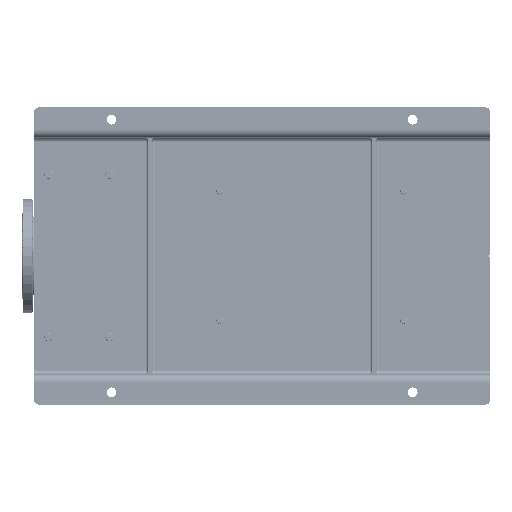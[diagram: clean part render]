
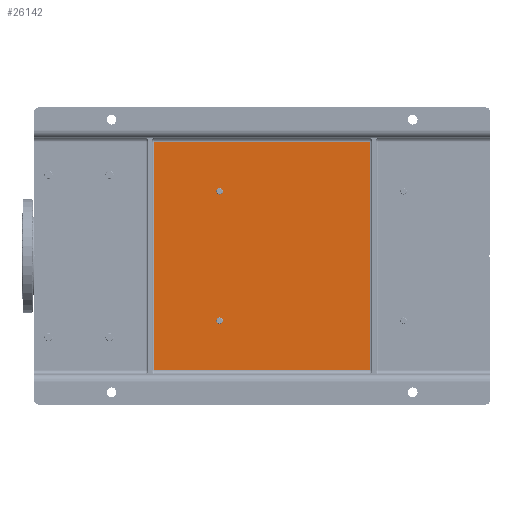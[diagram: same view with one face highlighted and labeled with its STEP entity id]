
A CAD part, front view. The second image highlights one B-rep face of the part: STEP entity #26142.
In plain terms, the highlighted planar face has unit normal (0, -1, 0).
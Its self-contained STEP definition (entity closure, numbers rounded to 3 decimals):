
#4373 = AXIS2_PLACEMENT_3D ( 'NONE', #204736, #61237, #155382 ) ;
#8592 = CIRCLE ( 'NONE', #112157, 8. ) ;
#15932 = DIRECTION ( 'NONE',  ( 0., 1., 0. ) ) ;
#17778 = CARTESIAN_POINT ( 'NONE',  ( 85., 90., -830. ) ) ;
#26142 = ADVANCED_FACE ( 'NONE', ( #74292, #72756, #27940 ), #290217, .T. ) ;
#27940 = FACE_OUTER_BOUND ( 'NONE', #222017, .T. ) ;
#33772 = LINE ( 'NONE', #225121, #246634 ) ;
#36932 = DIRECTION ( 'NONE',  ( -1., 0., 0. ) ) ;
#52984 = CARTESIAN_POINT ( 'NONE',  ( 206., 90., -447.65 ) ) ;
#56445 = EDGE_CURVE ( 'NONE', #251020, #206937, #137474, .T. ) ;
#58164 = CARTESIAN_POINT ( 'NONE',  ( 645., 90., -295. ) ) ;
#59610 = CARTESIAN_POINT ( 'NONE',  ( 645., 90., -825. ) ) ;
#60122 = CARTESIAN_POINT ( 'NONE',  ( 75., 90., -295. ) ) ;
#61237 = DIRECTION ( 'NONE',  ( 0., 1., 0. ) ) ;
#66712 = CARTESIAN_POINT ( 'NONE',  ( 524., 90., -447.65 ) ) ;
#72756 = FACE_BOUND ( 'NONE', #237372, .T. ) ;
#73741 = EDGE_CURVE ( 'NONE', #211365, #236858, #298671, .T. ) ;
#74292 = FACE_BOUND ( 'NONE', #254394, .T. ) ;
#78442 = DIRECTION ( 'NONE',  ( 0., 1., 0. ) ) ;
#86931 = DIRECTION ( 'NONE',  ( 0., 0., -1. ) ) ;
#89977 = CARTESIAN_POINT ( 'NONE',  ( 206., 90., -455.65 ) ) ;
#91826 = EDGE_CURVE ( 'NONE', #236177, #235965, #263511, .T. ) ;
#95923 = EDGE_CURVE ( 'NONE', #206937, #251020, #230438, .T. ) ;
#112157 = AXIS2_PLACEMENT_3D ( 'NONE', #89977, #15932, #86931 ) ;
#115678 = AXIS2_PLACEMENT_3D ( 'NONE', #289835, #78442, #275442 ) ;
#128701 = ORIENTED_EDGE ( 'NONE', *, *, #287774, .T. ) ;
#134426 = VECTOR ( 'NONE', #277097, 1000. ) ;
#137474 = CIRCLE ( 'NONE', #4373, 8. ) ;
#142382 = EDGE_CURVE ( 'NONE', #235965, #236177, #8592, .T. ) ;
#143078 = AXIS2_PLACEMENT_3D ( 'NONE', #168458, #267051, #261040 ) ;
#155382 = DIRECTION ( 'NONE',  ( 0., 0., 1. ) ) ;
#155411 = VERTEX_POINT ( 'NONE', #58164 ) ;
#163883 = ORIENTED_EDGE ( 'NONE', *, *, #95923, .T. ) ;
#168458 = CARTESIAN_POINT ( 'NONE',  ( 75., 90., -1120. ) ) ;
#171007 = ORIENTED_EDGE ( 'NONE', *, *, #211100, .T. ) ;
#180058 = CARTESIAN_POINT ( 'NONE',  ( 85., 90., -825. ) ) ;
#181294 = ORIENTED_EDGE ( 'NONE', *, *, #142382, .T. ) ;
#181872 = CARTESIAN_POINT ( 'NONE',  ( 85., 90., -295. ) ) ;
#183062 = ORIENTED_EDGE ( 'NONE', *, *, #217023, .T. ) ;
#194464 = CARTESIAN_POINT ( 'NONE',  ( 206., 90., -463.65 ) ) ;
#200946 = ORIENTED_EDGE ( 'NONE', *, *, #56445, .T. ) ;
#204736 = CARTESIAN_POINT ( 'NONE',  ( 524., 90., -455.65 ) ) ;
#206937 = VERTEX_POINT ( 'NONE', #230763 ) ;
#210640 = AXIS2_PLACEMENT_3D ( 'NONE', #262341, #283965, #214508 ) ;
#211100 = EDGE_CURVE ( 'NONE', #211474, #155411, #33772, .T. ) ;
#211365 = VERTEX_POINT ( 'NONE', #181872 ) ;
#211474 = VERTEX_POINT ( 'NONE', #59610 ) ;
#214508 = DIRECTION ( 'NONE',  ( 0., 0., 1. ) ) ;
#217023 = EDGE_CURVE ( 'NONE', #236858, #211474, #267830, .T. ) ;
#221548 = CARTESIAN_POINT ( 'NONE',  ( 75., 90., -825. ) ) ;
#222017 = EDGE_LOOP ( 'NONE', ( #232810, #183062, #171007, #128701 ) ) ;
#222074 = DIRECTION ( 'NONE',  ( 0., 0., 1. ) ) ;
#225121 = CARTESIAN_POINT ( 'NONE',  ( 645., 90., -290. ) ) ;
#230438 = CIRCLE ( 'NONE', #210640, 8. ) ;
#230763 = CARTESIAN_POINT ( 'NONE',  ( 524., 90., -463.65 ) ) ;
#232810 = ORIENTED_EDGE ( 'NONE', *, *, #73741, .T. ) ;
#235965 = VERTEX_POINT ( 'NONE', #52984 ) ;
#236177 = VERTEX_POINT ( 'NONE', #194464 ) ;
#236858 = VERTEX_POINT ( 'NONE', #180058 ) ;
#237372 = EDGE_LOOP ( 'NONE', ( #200946, #163883 ) ) ;
#242566 = ORIENTED_EDGE ( 'NONE', *, *, #91826, .T. ) ;
#246634 = VECTOR ( 'NONE', #222074, 1000. ) ;
#251020 = VERTEX_POINT ( 'NONE', #66712 ) ;
#254394 = EDGE_LOOP ( 'NONE', ( #181294, #242566 ) ) ;
#261040 = DIRECTION ( 'NONE',  ( 0., 0., -1. ) ) ;
#262341 = CARTESIAN_POINT ( 'NONE',  ( 524., 90., -455.65 ) ) ;
#263511 = CIRCLE ( 'NONE', #115678, 8. ) ;
#267051 = DIRECTION ( 'NONE',  ( 0., -1., 0. ) ) ;
#267830 = LINE ( 'NONE', #221548, #299192 ) ;
#268461 = LINE ( 'NONE', #60122, #272391 ) ;
#272391 = VECTOR ( 'NONE', #36932, 1000. ) ;
#275442 = DIRECTION ( 'NONE',  ( 0., 0., -1. ) ) ;
#277097 = DIRECTION ( 'NONE',  ( 0., 0., -1. ) ) ;
#283965 = DIRECTION ( 'NONE',  ( 0., 1., 0. ) ) ;
#287774 = EDGE_CURVE ( 'NONE', #155411, #211365, #268461, .T. ) ;
#289835 = CARTESIAN_POINT ( 'NONE',  ( 206., 90., -455.65 ) ) ;
#290217 = PLANE ( 'NONE',  #143078 ) ;
#290994 = DIRECTION ( 'NONE',  ( 1., 0., 0. ) ) ;
#298671 = LINE ( 'NONE', #17778, #134426 ) ;
#299192 = VECTOR ( 'NONE', #290994, 1000. ) ;
